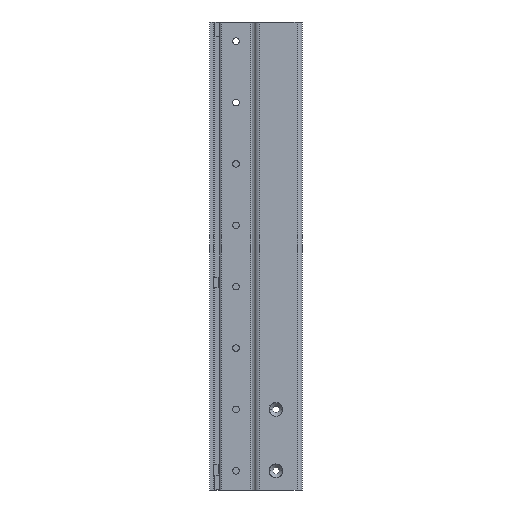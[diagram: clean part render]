
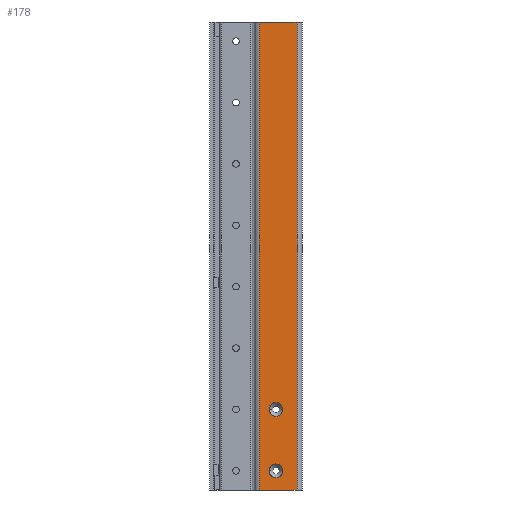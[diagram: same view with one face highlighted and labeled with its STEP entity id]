
A CAD part, left-side view. The second image highlights one B-rep face of the part: STEP entity #178.
In plain terms, the highlighted planar face has unit normal (-1, 0, 0).
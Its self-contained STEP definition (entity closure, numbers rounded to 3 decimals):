
#178=ADVANCED_FACE('',(#544,#545,#546),#547,.T.);
#544=FACE_BOUND('',#1118,.T.);
#545=FACE_BOUND('',#1119,.T.);
#546=FACE_OUTER_BOUND('',#1120,.T.);
#547=PLANE('',#1121);
#1118=EDGE_LOOP('',(#2241,#2242));
#1119=EDGE_LOOP('',(#2243,#2244));
#1120=EDGE_LOOP('',(#2245,#2246,#2247,#2248));
#1121=AXIS2_PLACEMENT_3D('',#2249,#2250,#2251);
#2241=ORIENTED_EDGE('',*,*,#3698,.T.);
#2242=ORIENTED_EDGE('',*,*,#3918,.T.);
#2243=ORIENTED_EDGE('',*,*,#3694,.T.);
#2244=ORIENTED_EDGE('',*,*,#3920,.T.);
#2245=ORIENTED_EDGE('',*,*,#3946,.T.);
#2246=ORIENTED_EDGE('',*,*,#3947,.F.);
#2247=ORIENTED_EDGE('',*,*,#3948,.T.);
#2248=ORIENTED_EDGE('',*,*,#3944,.T.);
#2249=CARTESIAN_POINT('',(-26.,-3.,0.0));
#2250=DIRECTION('',(-1.0,0.0,0.0));
#2251=DIRECTION('',(0.0,-1.0,0.0));
#3694=EDGE_CURVE('',#4402,#4399,#4403,.T.);
#3698=EDGE_CURVE('',#4410,#4407,#4411,.T.);
#3918=EDGE_CURVE('',#4407,#4410,#4776,.T.);
#3920=EDGE_CURVE('',#4399,#4402,#4778,.T.);
#3944=EDGE_CURVE('',#4819,#4817,#4820,.T.);
#3946=EDGE_CURVE('',#4817,#4822,#4823,.T.);
#3947=EDGE_CURVE('',#4824,#4822,#4825,.T.);
#3948=EDGE_CURVE('',#4824,#4819,#4826,.T.);
#4399=VERTEX_POINT('',#5565);
#4402=VERTEX_POINT('',#5569);
#4403=CIRCLE('',#5570,9.0);
#4407=VERTEX_POINT('',#5575);
#4410=VERTEX_POINT('',#5579);
#4411=CIRCLE('',#5580,9.0);
#4776=CIRCLE('',#6122,9.0);
#4778=CIRCLE('',#6124,9.0);
#4817=VERTEX_POINT('',#6181);
#4819=VERTEX_POINT('',#6183);
#4820=LINE('',#6184,#6185);
#4822=VERTEX_POINT('',#6187);
#4823=LINE('',#6188,#6189);
#4824=VERTEX_POINT('',#6190);
#4825=LINE('',#6191,#6192);
#4826=LINE('',#6193,#6194);
#5565=CARTESIAN_POINT('',(-26.,0.,34.0));
#5569=CARTESIAN_POINT('',(-26.,0.,16.0));
#5570=AXIS2_PLACEMENT_3D('',#7206,#7207,#7208);
#5575=CARTESIAN_POINT('',(-26.,0.,114.0));
#5579=CARTESIAN_POINT('',(-26.,0.,96.0));
#5580=AXIS2_PLACEMENT_3D('',#7214,#7215,#7216);
#6122=AXIS2_PLACEMENT_3D('',#7520,#7521,#7522);
#6124=AXIS2_PLACEMENT_3D('',#7526,#7527,#7528);
#6181=CARTESIAN_POINT('',(-26.,-27.5,610.0));
#6183=CARTESIAN_POINT('',(-26.,-27.5,0.0));
#6184=CARTESIAN_POINT('',(-26.,-27.5,0.0));
#6185=VECTOR('',#7562,1.0);
#6187=CARTESIAN_POINT('',(-26.,21.5,610.0));
#6188=CARTESIAN_POINT('',(-26.,21.5,610.0));
#6189=VECTOR('',#7566,1.0);
#6190=CARTESIAN_POINT('',(-26.,21.5,0.0));
#6191=CARTESIAN_POINT('',(-26.,21.5,0.0));
#6192=VECTOR('',#7567,1.0);
#6193=CARTESIAN_POINT('',(-26.,21.5,0.0));
#6194=VECTOR('',#7568,1.0);
#7206=CARTESIAN_POINT('',(-26.,0.0,25.0));
#7207=DIRECTION('',(1.0,0.0,-0.0));
#7208=DIRECTION('',(0.0,0.0,1.0));
#7214=CARTESIAN_POINT('',(-26.,0.0,105.0));
#7215=DIRECTION('',(1.0,0.0,-0.0));
#7216=DIRECTION('',(0.0,0.0,1.0));
#7520=CARTESIAN_POINT('',(-26.,0.0,105.0));
#7521=DIRECTION('',(1.0,0.0,-0.0));
#7522=DIRECTION('',(0.0,0.0,1.0));
#7526=CARTESIAN_POINT('',(-26.,0.0,25.0));
#7527=DIRECTION('',(1.0,0.0,-0.0));
#7528=DIRECTION('',(0.0,0.0,1.0));
#7562=DIRECTION('',(0.0,0.0,1.0));
#7566=DIRECTION('',(0.0,1.0,0.0));
#7567=DIRECTION('',(0.0,0.0,1.0));
#7568=DIRECTION('',(0.0,-1.0,0.0));
